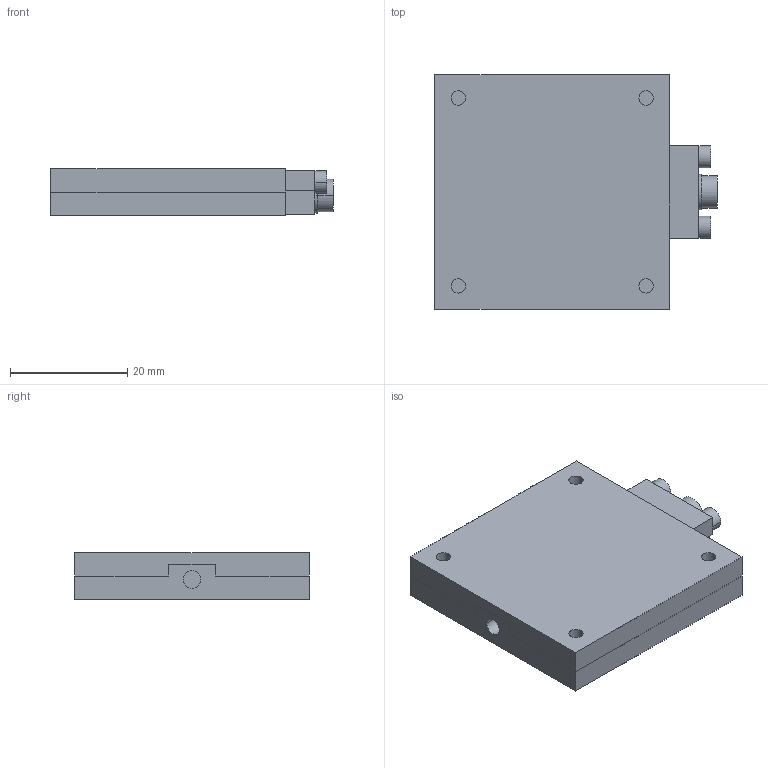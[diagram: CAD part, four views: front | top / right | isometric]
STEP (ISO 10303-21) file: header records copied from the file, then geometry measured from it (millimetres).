
FILE_DESCRIPTION(('CATIA V5 STEP','CAx-IF Rec.Pracs.--- Model Styling and Organization---1.4--- 2014-01-23','CAx-IF Rec.Pracs.---3D Tessellated Data Validation Properties---0.5---2014-09-14'),'2;1');
FILE_NAME('C:\Users\01084\Desktop\LKS-FR-40T.stp','2023-12-08T02:05:50+00:00',('none'),('none'),'CATIA Version 5-6 Release 2018 SP6','CATIA V5 STEP AP242','none');
FILE_SCHEMA(('AP242_MANAGED_MODEL_BASED_3D_ENGINEERING_MIM_LF {1 0 10303 442 1 1 4}'));
Length unit declared in the file: millimetre
Products named in the file (3): LKS-FR-40T; Base_40T; Table_40T
Assembly tree (2 placements, depth 2):
  LKS-FR-40T
    Base_40T
    Table_40T
Bounding box: 48.1 x 40 x 8 mm (x, y, z)
Volume: 12059.1 mm3; surface area: 9048.8 mm2
Topology: 2 solids, 2 shells, 103 faces, 250 edges, 166 vertices
Faces by surface type: plane 59, cylinder 44
Entity records: 2879 total; most frequent: ORIENTED_EDGE 500, CARTESIAN_POINT 493, DIRECTION 404, EDGE_CURVE 250, VERTEX_POINT 166, AXIS2_PLACEMENT_3D 165, VECTOR 162, LINE 162
